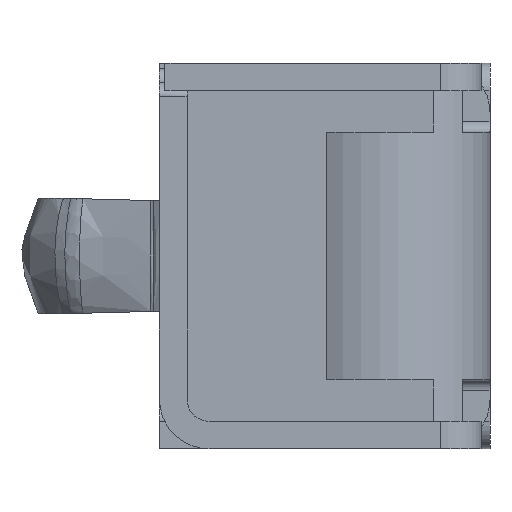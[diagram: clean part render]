
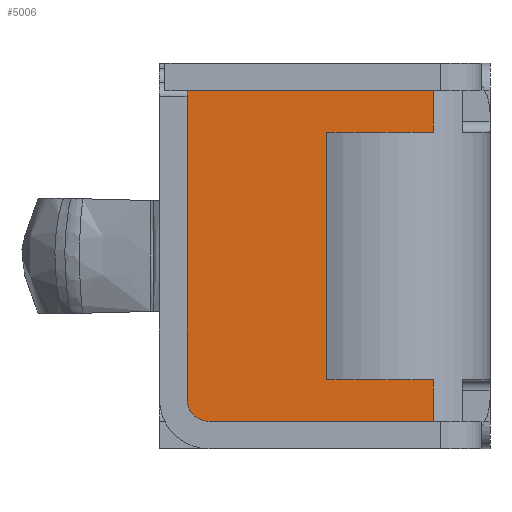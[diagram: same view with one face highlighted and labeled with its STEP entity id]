
A CAD part, left-side view. The second image highlights one B-rep face of the part: STEP entity #5006.
In plain terms, the highlighted planar face has unit normal (-1, 0, 0) as drawn and (1, 0, 0) by its records, which use the part's own axes.
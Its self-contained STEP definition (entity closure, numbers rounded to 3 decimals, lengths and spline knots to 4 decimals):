
#109=DIRECTION('',(0.,0.,-1.));
#110=VECTOR('',#109,0.8936);
#111=CARTESIAN_POINT('',(1.2,-0.6,-0.2064));
#112=LINE('',#111,#110);
#199=DIRECTION('',(0.,-1.,0.));
#200=VECTOR('',#199,1.1);
#201=CARTESIAN_POINT('',(1.2,0.52,-1.1));
#202=LINE('',#201,#200);
#233=DIRECTION('',(0.,1.,0.));
#234=VECTOR('',#233,0.15);
#235=CARTESIAN_POINT('',(1.2,-0.6,-0.2064));
#236=LINE('',#235,#234);
#237=DIRECTION('',(0.,1.,0.));
#238=VECTOR('',#237,0.15);
#239=CARTESIAN_POINT('',(1.2,0.45,-0.2064));
#240=LINE('',#239,#238);
#241=DIRECTION('',(0.,1.,0.));
#242=VECTOR('',#241,0.02);
#243=CARTESIAN_POINT('',(1.2,-0.6,-1.1));
#244=LINE('',#243,#242);
#245=DIRECTION('',(0.,1.,0.));
#246=VECTOR('',#245,0.9);
#247=CARTESIAN_POINT('',(1.2,-0.45,-0.5936));
#248=LINE('',#247,#246);
#253=DIRECTION('',(0.,0.,1.));
#254=VECTOR('',#253,0.3873);
#255=CARTESIAN_POINT('',(1.2,0.45,-0.5936));
#256=LINE('',#255,#254);
#1231=DIRECTION('',(0.,0.,-1.));
#1232=VECTOR('',#1231,0.8136);
#1233=CARTESIAN_POINT('',(1.2,0.6,-0.2064));
#1234=LINE('',#1233,#1232);
#2862=DIRECTION('',(0.,0.,1.));
#2863=VECTOR('',#2862,0.3873);
#2864=CARTESIAN_POINT('',(1.2,-0.45,-0.5936));
#2865=LINE('',#2864,#2863);
#2937=CARTESIAN_POINT('',(1.2,0.52,-1.02));
#2938=DIRECTION('',(-1.,0.,0.));
#2939=DIRECTION('',(0.,1.,0.));
#2940=AXIS2_PLACEMENT_3D('',#2937,#2938,#2939);
#4282=CARTESIAN_POINT('',(1.2,-0.6,-1.1));
#4284=VERTEX_POINT('',#4282);
#4345=CARTESIAN_POINT('',(1.2,0.52,-1.1));
#4346=CARTESIAN_POINT('',(1.2,-0.58,-1.1));
#4347=VERTEX_POINT('',#4345);
#4348=VERTEX_POINT('',#4346);
#4365=CARTESIAN_POINT('',(1.2,0.6,-1.02));
#4366=VERTEX_POINT('',#4365);
#4411=CARTESIAN_POINT('',(1.2,-0.45,-0.5936));
#4412=CARTESIAN_POINT('',(1.2,0.45,-0.5936));
#4413=VERTEX_POINT('',#4411);
#4414=VERTEX_POINT('',#4412);
#4459=CARTESIAN_POINT('',(1.2,-0.6,-0.2064));
#4460=CARTESIAN_POINT('',(1.2,-0.45,-0.2064));
#4461=VERTEX_POINT('',#4459);
#4462=VERTEX_POINT('',#4460);
#4463=CARTESIAN_POINT('',(1.2,0.45,-0.2064));
#4464=CARTESIAN_POINT('',(1.2,0.6,-0.2064));
#4465=VERTEX_POINT('',#4463);
#4466=VERTEX_POINT('',#4464);
#4982=CARTESIAN_POINT('',(1.2,0.,0.));
#4983=DIRECTION('',(1.,0.,0.));
#4984=DIRECTION('',(0.,-1.,0.));
#4985=AXIS2_PLACEMENT_3D('',#4982,#4983,#4984);
#4986=PLANE('',#4985);
#4988=ORIENTED_EDGE('',*,*,#4987,.T.);
#4990=ORIENTED_EDGE('',*,*,#4989,.F.);
#4992=ORIENTED_EDGE('',*,*,#4991,.T.);
#4994=ORIENTED_EDGE('',*,*,#4993,.T.);
#4996=ORIENTED_EDGE('',*,*,#4995,.T.);
#4998=ORIENTED_EDGE('',*,*,#4997,.T.);
#5000=ORIENTED_EDGE('',*,*,#4999,.T.);
#5001=ORIENTED_EDGE('',*,*,#4952,.T.);
#5002=ORIENTED_EDGE('',*,*,#4655,.F.);
#5003=ORIENTED_EDGE('',*,*,#4808,.F.);
#5004=EDGE_LOOP('',(#4988,#4990,#4992,#4994,#4996,#4998,#5000,#5001,#5002,
#5003));
#5005=FACE_OUTER_BOUND('',#5004,.F.);
#5006=ADVANCED_FACE('',(#5005),#4986,.T.);
#2941=CIRCLE('',#2940,0.08);
#4655=EDGE_CURVE('',#4284,#4348,#244,.T.);
#4808=EDGE_CURVE('',#4461,#4284,#112,.T.);
#4952=EDGE_CURVE('',#4347,#4348,#202,.T.);
#4987=EDGE_CURVE('',#4461,#4462,#236,.T.);
#4989=EDGE_CURVE('',#4413,#4462,#2865,.T.);
#4991=EDGE_CURVE('',#4413,#4414,#248,.T.);
#4993=EDGE_CURVE('',#4414,#4465,#256,.T.);
#4995=EDGE_CURVE('',#4465,#4466,#240,.T.);
#4997=EDGE_CURVE('',#4466,#4366,#1234,.T.);
#4999=EDGE_CURVE('',#4366,#4347,#2941,.T.);
